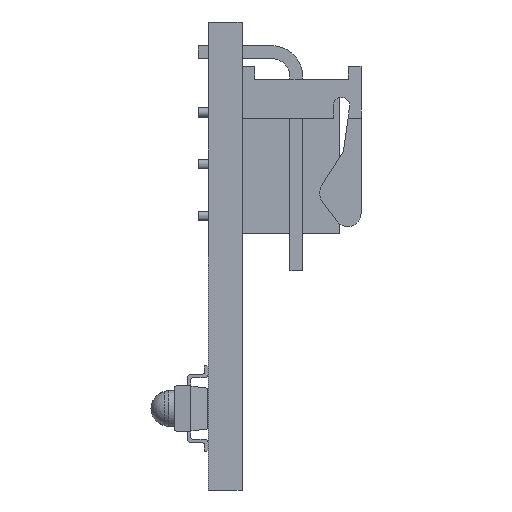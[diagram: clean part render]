
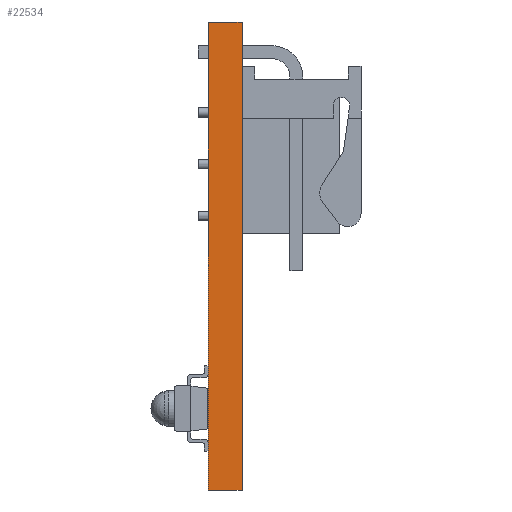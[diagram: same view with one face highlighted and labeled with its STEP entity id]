
A CAD part, left-side view. The second image highlights one B-rep face of the part: STEP entity #22534.
In plain terms, the highlighted planar face has unit normal (-1, 0, 0).
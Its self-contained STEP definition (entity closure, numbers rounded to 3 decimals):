
#1534=FACE_OUTER_BOUND('',#2909,.T.);
#2909=EDGE_LOOP('',(#16766,#16767,#16768,#16769));
#4868=LINE('',#33450,#7463);
#4925=LINE('',#33771,#7520);
#4928=LINE('',#33776,#7523);
#4929=LINE('',#33778,#7524);
#7463=VECTOR('',#27190,10.);
#7520=VECTOR('',#27571,10.);
#7523=VECTOR('',#27578,10.);
#7524=VECTOR('',#27581,10.);
#9705=VERTEX_POINT('',#33447);
#9706=VERTEX_POINT('',#33449);
#9805=VERTEX_POINT('',#33764);
#9808=VERTEX_POINT('',#33769);
#12128=EDGE_CURVE('',#9705,#9706,#4868,.T.);
#12291=EDGE_CURVE('',#9808,#9805,#4925,.T.);
#12294=EDGE_CURVE('',#9808,#9706,#4928,.T.);
#12295=EDGE_CURVE('',#9805,#9705,#4929,.T.);
#16766=ORIENTED_EDGE('',*,*,#12294,.T.);
#16767=ORIENTED_EDGE('',*,*,#12128,.F.);
#16768=ORIENTED_EDGE('',*,*,#12295,.F.);
#16769=ORIENTED_EDGE('',*,*,#12291,.F.);
#20405=PLANE('',#23873);
#22534=ADVANCED_FACE('',(#1534),#20405,.T.);
#23873=AXIS2_PLACEMENT_3D('',#33777,#27579,#27580);
#27190=DIRECTION('',(0.,0.,1.));
#27571=DIRECTION('',(0.,0.,-1.));
#27578=DIRECTION('',(0.,1.,0.));
#27579=DIRECTION('center_axis',(-1.,0.,0.));
#27580=DIRECTION('ref_axis',(0.,0.,1.));
#27581=DIRECTION('',(0.,1.,0.));
#33447=CARTESIAN_POINT('',(0.,0.825,-22.987));
#33449=CARTESIAN_POINT('',(0.,0.825,0.));
#33450=CARTESIAN_POINT('',(0.,0.825,-22.987));
#33764=CARTESIAN_POINT('',(0.,-0.825,-22.987));
#33769=CARTESIAN_POINT('',(0.,-0.825,0.));
#33771=CARTESIAN_POINT('',(0.,-0.825,-22.987));
#33776=CARTESIAN_POINT('',(0.,0.,0.));
#33777=CARTESIAN_POINT('Origin',(0.,0.,-22.987));
#33778=CARTESIAN_POINT('',(0.,0.,-22.987));
